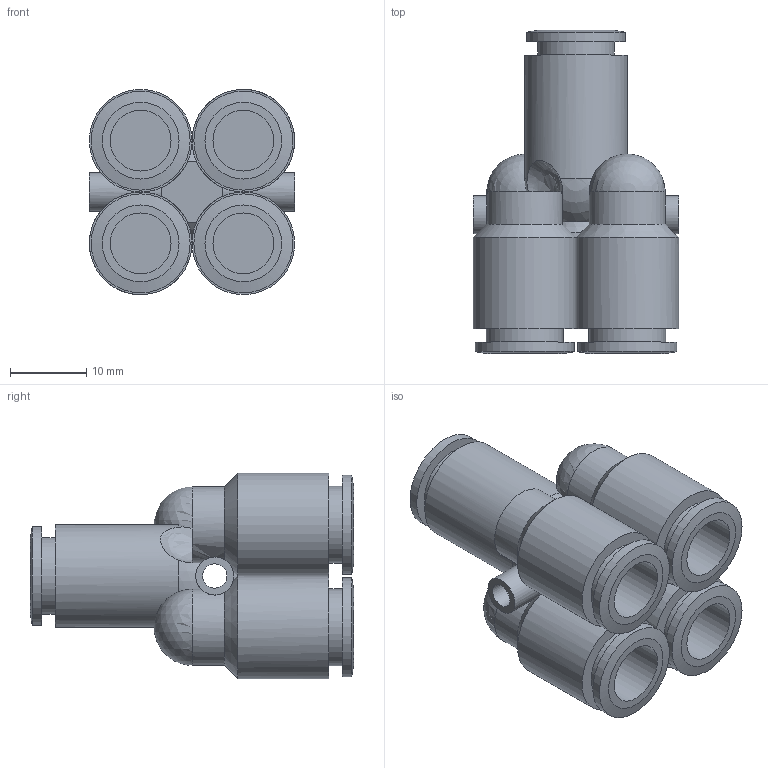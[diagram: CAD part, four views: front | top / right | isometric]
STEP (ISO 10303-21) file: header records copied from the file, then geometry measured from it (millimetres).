
FILE_DESCRIPTION((''),'2;1');
FILE_NAME('C:\Documents and Settings\rivolro1\Documenti\copia di Raccordi\PLASTICA\T24XXXX\T240800.stp','2007-11-02T15:05:32',('Rivolro1'),(''),'Autodesk Inventor 2008','Autodesk Inventor 2008','');
FILE_SCHEMA(('AUTOMOTIVE_DESIGN { 1 0 10303 214 1 1 1 1 }'));
Length unit declared in the file: millimetre
Products named in the file (1): T240800
Bounding box: 27 x 42.5 x 27 mm (x, y, z)
Volume: 10455 mm3; surface area: 8250.2 mm2
Topology: 1 solids, 1 shells, 79 faces, 224 edges, 136 vertices
Faces by surface type: bspline 27, cylinder 24, plane 15, cone 7, sphere 6
Full cylindrical faces by diameter (mm): 5 x2, 8 x3, 10.1 x3, 13 x3, 13.5 x1
Entity records: 3247 total; most frequent: CARTESIAN_POINT 1489, ORIENTED_EDGE 340, DIRECTION 330, EDGE_CURVE 170, AXIS2_PLACEMENT_3D 157, VERTEX_POINT 122, EDGE_LOOP 122, CIRCLE 106
